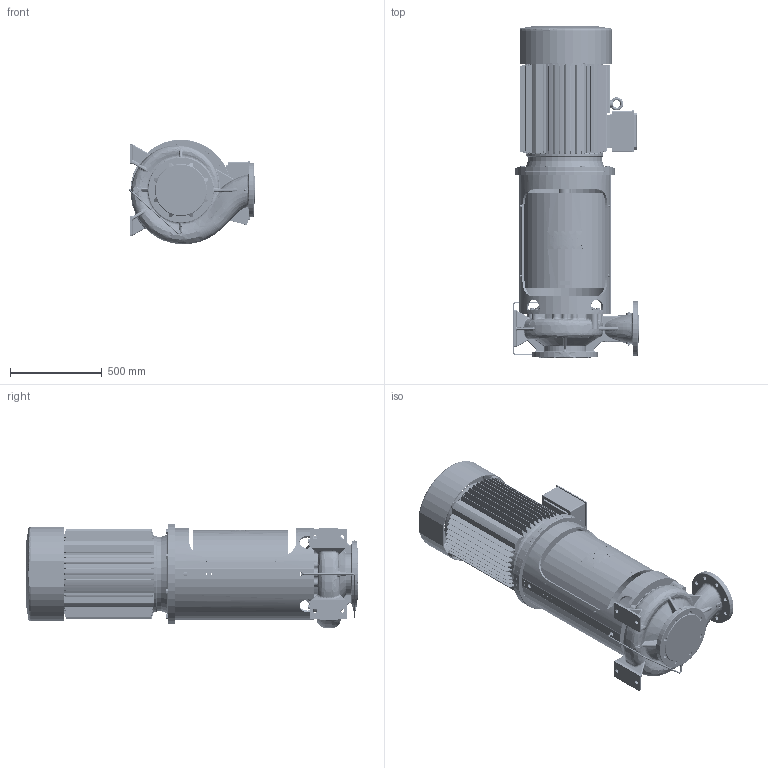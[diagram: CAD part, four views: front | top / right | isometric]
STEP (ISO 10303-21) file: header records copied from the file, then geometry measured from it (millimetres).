
FILE_DESCRIPTION((''),'2;1');
FILE_NAME('NSLV150-330_A14_ASM','2019-05-22T',('BRHE'),(''),'PRO/ENGINEER BY PARAMETRIC TECHNOLOGY CORPORATION, 2017170','PRO/ENGINEER BY PARAMETRIC TECHNOLOGY CORPORATION, 2017170','');
FILE_SCHEMA(('CONFIG_CONTROL_DESIGN'));
Products named in the file (28): 521200; 513980; 704187; 506962; 704279; 704067; 705750; 708178; 704390; 704263; 704286_AF8; 101422; 704041; 704275; 656435_ASM; 110536; 513944; 704016; 704309; 110190-1_AF1; 760288; 110190_AF1_ASM; 707014; 706719; 673353_AF0_ASM; 844520; 101423_AF0; NSLV150-330_A14_ASM
Assembly tree (88 placements, depth 4):
  NSLV150-330_A14_ASM
    656435_ASM
      521200
      513980
      704187
      506962
      704279  x4
      704067  x12
      705750  x12
      708178  x2
      704390  x3
      704263
      704286_AF8
      101422
      704041  x2
      704275
    673353_AF0_ASM
      110536
      513944
      704016  x8
      704309  x8
      110190_AF1_ASM
        110190-1_AF1
        760288  x4
      707014  x4
      706719  x4
    844520
    101422
    101423_AF0
    704041  x6
    704390  x2
Bounding box: 688.99 x 1813.5 x 571.87 mm (x, y, z)
Volume: 165753138.4 mm3; surface area: 10801382.6 mm2
Topology: 85 solids, 168 shells, 5119 faces, 13105 edges, 8362 vertices
Faces by surface type: plane 1975, cylinder 1289, bspline 634, cone 516, extrusion 298, torus 282, sphere 125
Entity records: 257508 total; most frequent: CARTESIAN_POINT 156507, ORIENTED_EDGE 21847, DIRECTION 18825, EDGE_CURVE 11198, VERTEX_POINT 7222, AXIS2_PLACEMENT_3D 6768, VECTOR 5289, LINE 4991
